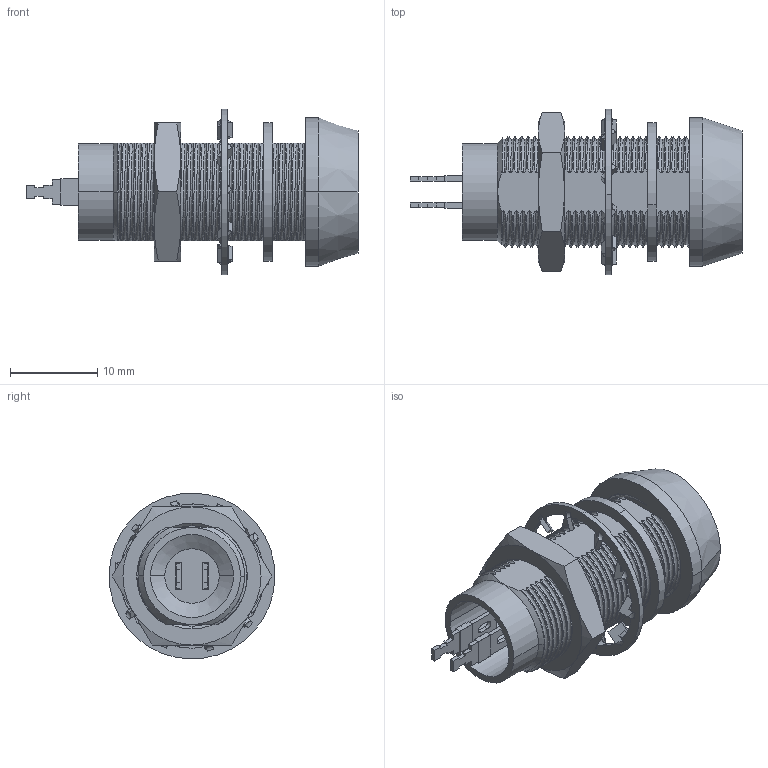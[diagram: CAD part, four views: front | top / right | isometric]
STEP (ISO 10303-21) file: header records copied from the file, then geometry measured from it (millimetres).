
FILE_DESCRIPTION (( 'STEP AP203' ), '1' );
FILE_NAME ('692 Series.STEP', '2016-08-04T15:13:37', ( '' ), ( '' ), 'SwSTEP 2.0', 'SolidWorks 2016', '' );
FILE_SCHEMA (( 'CONFIG_CONTROL_DESIGN' ));
Products named in the file (8): 10FDR; 2032; com3324_PARALLEL; COM2027; COM2035; COM4369_Threaded; Part5^692series; 692 Series
Assembly tree (7 placements, depth 2):
  692 Series
    COM4369_Threaded
    com3324_PARALLEL
    Part5^692series
    10FDR
    COM2027
    2032
    COM2035
Bounding box: 38 x 18.99 x 18.99 mm (x, y, z)
Volume: 2737.3 mm3; surface area: 4023.4 mm2
Topology: 9 solids, 9 shells, 459 faces, 1289 edges, 851 vertices
Faces by surface type: cylinder 149, plane 145, bspline 136, cone 21, torus 8
Entity records: 434300 total; most frequent: CARTESIAN_POINT 423620, ORIENTED_EDGE 2578, DIRECTION 1438, EDGE_CURVE 1289, VERTEX_POINT 851, VECTOR 536, LINE 536, EDGE_LOOP 474
